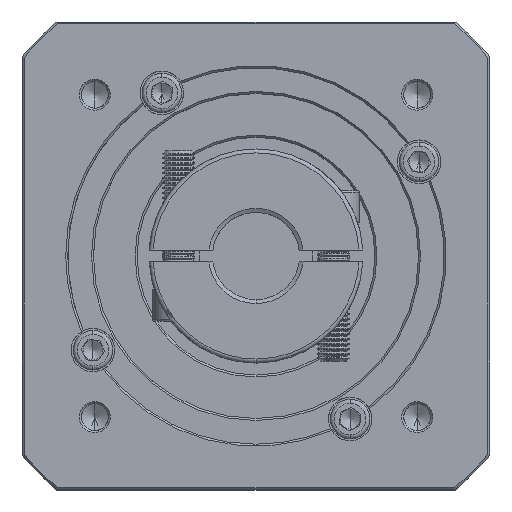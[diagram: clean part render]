
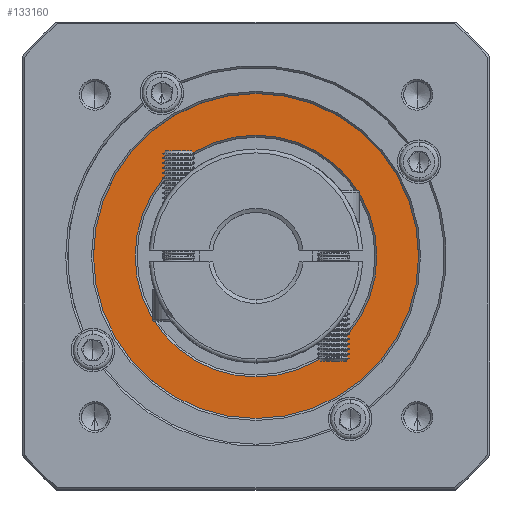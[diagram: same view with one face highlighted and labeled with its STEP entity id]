
A CAD part, top view. The second image highlights one B-rep face of the part: STEP entity #133160.
In plain terms, the highlighted planar face has unit normal (0, 0, 1).
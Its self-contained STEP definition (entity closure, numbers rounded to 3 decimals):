
#922 = ORIENTED_EDGE ( 'NONE', *, *, #18875, .T. ) ;
#9693 = DIRECTION ( 'NONE',  ( 0., -1., 0. ) ) ;
#9852 = VERTEX_POINT ( 'NONE', #85159 ) ;
#18875 = EDGE_CURVE ( 'NONE', #9852, #75006, #93206, .T. ) ;
#18943 = CARTESIAN_POINT ( 'NONE',  ( 48.799, 117.112, -9.212 ) ) ;
#24344 = AXIS2_PLACEMENT_3D ( 'NONE', #106541, #94832, #29533 ) ;
#25494 = CIRCLE ( 'NONE', #98805, 30.5 ) ;
#29533 = DIRECTION ( 'NONE',  ( 0., -1., 0. ) ) ;
#31810 = VERTEX_POINT ( 'NONE', #126510 ) ;
#32309 = DIRECTION ( 'NONE',  ( 0., 0., -1. ) ) ;
#32575 = DIRECTION ( 'NONE',  ( 0., -1., 0. ) ) ;
#36077 = DIRECTION ( 'NONE',  ( 0., 0., 1. ) ) ;
#37766 = CARTESIAN_POINT ( 'NONE',  ( 48.799, 106.612, -9.212 ) ) ;
#38643 = CARTESIAN_POINT ( 'NONE',  ( 48.799, 76.112, -9.212 ) ) ;
#43019 = DIRECTION ( 'NONE',  ( 0., 0., 1. ) ) ;
#43309 = AXIS2_PLACEMENT_3D ( 'NONE', #96943, #43019, #32575 ) ;
#61460 = FACE_OUTER_BOUND ( 'NONE', #137232, .T. ) ;
#69396 = DIRECTION ( 'NONE',  ( 0., -1., 0. ) ) ;
#71039 = AXIS2_PLACEMENT_3D ( 'NONE', #112105, #36077, #69396 ) ;
#75006 = VERTEX_POINT ( 'NONE', #18943 ) ;
#78315 = FACE_BOUND ( 'NONE', #118530, .T. ) ;
#82940 = ORIENTED_EDGE ( 'NONE', *, *, #116582, .T. ) ;
#85159 = CARTESIAN_POINT ( 'NONE',  ( 48.799, 35.112, -9.212 ) ) ;
#89436 = ORIENTED_EDGE ( 'NONE', *, *, #104105, .T. ) ;
#90404 = CIRCLE ( 'NONE', #104367, 30.5 ) ;
#92124 = DIRECTION ( 'NONE',  ( 0., -1., 0. ) ) ;
#93206 = CIRCLE ( 'NONE', #24344, 41. ) ;
#94832 = DIRECTION ( 'NONE',  ( 0., 0., 1. ) ) ;
#96943 = CARTESIAN_POINT ( 'NONE',  ( 48.799, 76.112, -9.212 ) ) ;
#98805 = AXIS2_PLACEMENT_3D ( 'NONE', #129136, #32309, #9693 ) ;
#104105 = EDGE_CURVE ( 'NONE', #31810, #104995, #25494, .T. ) ;
#104367 = AXIS2_PLACEMENT_3D ( 'NONE', #38643, #134888, #92124 ) ;
#104387 = EDGE_CURVE ( 'NONE', #75006, #9852, #122923, .T. ) ;
#104995 = VERTEX_POINT ( 'NONE', #37766 ) ;
#106541 = CARTESIAN_POINT ( 'NONE',  ( 48.799, 76.112, -9.212 ) ) ;
#112105 = CARTESIAN_POINT ( 'NONE',  ( 48.799, 76.112, -9.212 ) ) ;
#116582 = EDGE_CURVE ( 'NONE', #104995, #31810, #90404, .T. ) ;
#118530 = EDGE_LOOP ( 'NONE', ( #89436, #82940 ) ) ;
#118595 = PLANE ( 'NONE',  #43309 ) ;
#122923 = CIRCLE ( 'NONE', #71039, 41. ) ;
#126510 = CARTESIAN_POINT ( 'NONE',  ( 48.799, 45.612, -9.212 ) ) ;
#129136 = CARTESIAN_POINT ( 'NONE',  ( 48.799, 76.112, -9.212 ) ) ;
#132276 = ORIENTED_EDGE ( 'NONE', *, *, #104387, .T. ) ;
#133160 = ADVANCED_FACE ( 'NONE', ( #61460, #78315 ), #118595, .T. ) ;
#134888 = DIRECTION ( 'NONE',  ( 0., 0., -1. ) ) ;
#137232 = EDGE_LOOP ( 'NONE', ( #922, #132276 ) ) ;
